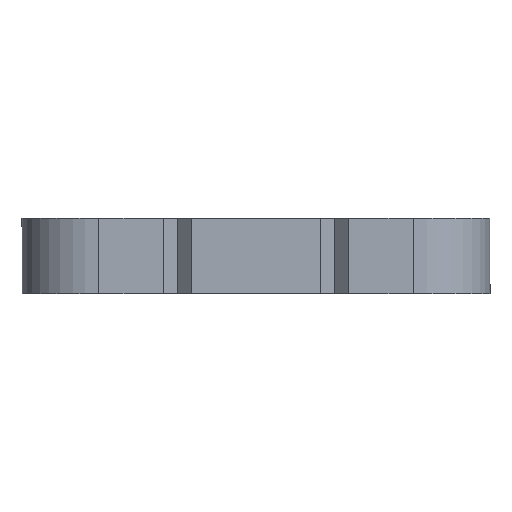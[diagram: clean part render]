
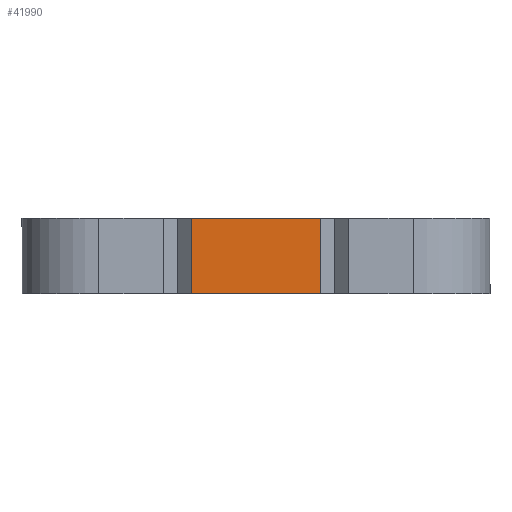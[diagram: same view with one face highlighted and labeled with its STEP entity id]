
A CAD part, left-side view. The second image highlights one B-rep face of the part: STEP entity #41990.
In plain terms, the highlighted planar face has unit normal (-1, 0, 0).
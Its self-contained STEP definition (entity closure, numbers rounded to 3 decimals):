
#1366 = DIRECTION ( 'NONE',  ( 0., 0., -1. ) ) ;
#2363 = CARTESIAN_POINT ( 'NONE',  ( -50.65, 5.219, -3.05 ) ) ;
#5065 = ORIENTED_EDGE ( 'NONE', *, *, #30131, .F. ) ;
#5591 = CARTESIAN_POINT ( 'NONE',  ( -50.65, 5.219, -3.05 ) ) ;
#5607 = PLANE ( 'NONE',  #32168 ) ;
#5683 = VERTEX_POINT ( 'NONE', #33441 ) ;
#11883 = LINE ( 'NONE', #36732, #22673 ) ;
#11892 = CARTESIAN_POINT ( 'NONE',  ( -50.65, 5.219, 3.05 ) ) ;
#12334 = VERTEX_POINT ( 'NONE', #31344 ) ;
#12346 = DIRECTION ( 'NONE',  ( 0., 0., -1. ) ) ;
#13660 = VECTOR ( 'NONE', #1366, 1000. ) ;
#17278 = DIRECTION ( 'NONE',  ( 1., 0., 0. ) ) ;
#19228 = LINE ( 'NONE', #2363, #33657 ) ;
#20181 = EDGE_CURVE ( 'NONE', #36961, #5683, #19228, .T. ) ;
#21582 = EDGE_CURVE ( 'NONE', #31219, #5683, #25725, .T. ) ;
#22128 = ORIENTED_EDGE ( 'NONE', *, *, #28848, .T. ) ;
#22673 = VECTOR ( 'NONE', #12346, 1000. ) ;
#23529 = VECTOR ( 'NONE', #26875, 1000. ) ;
#25191 = EDGE_LOOP ( 'NONE', ( #22128, #28671, #36995, #5065 ) ) ;
#25725 = LINE ( 'NONE', #43559, #13660 ) ;
#26875 = DIRECTION ( 'NONE',  ( 0., -1., 0. ) ) ;
#28671 = ORIENTED_EDGE ( 'NONE', *, *, #20181, .T. ) ;
#28848 = EDGE_CURVE ( 'NONE', #12334, #36961, #11883, .T. ) ;
#30131 = EDGE_CURVE ( 'NONE', #12334, #31219, #44470, .T. ) ;
#30485 = DIRECTION ( 'NONE',  ( 0., -1., 0. ) ) ;
#30659 = CARTESIAN_POINT ( 'NONE',  ( -50.65, 0., 1. ) ) ;
#31219 = VERTEX_POINT ( 'NONE', #40652 ) ;
#31344 = CARTESIAN_POINT ( 'NONE',  ( -50.65, 5.219, 3.05 ) ) ;
#32168 = AXIS2_PLACEMENT_3D ( 'NONE', #30659, #17278, #45885 ) ;
#33441 = CARTESIAN_POINT ( 'NONE',  ( -50.65, -5.219, -3.05 ) ) ;
#33657 = VECTOR ( 'NONE', #30485, 1000. ) ;
#36732 = CARTESIAN_POINT ( 'NONE',  ( -50.65, 5.219, 1. ) ) ;
#36961 = VERTEX_POINT ( 'NONE', #5591 ) ;
#36995 = ORIENTED_EDGE ( 'NONE', *, *, #21582, .F. ) ;
#37688 = FACE_OUTER_BOUND ( 'NONE', #25191, .T. ) ;
#40652 = CARTESIAN_POINT ( 'NONE',  ( -50.65, -5.219, 3.05 ) ) ;
#41990 = ADVANCED_FACE ( 'NONE', ( #37688 ), #5607, .F. ) ;
#43559 = CARTESIAN_POINT ( 'NONE',  ( -50.65, -5.219, 1. ) ) ;
#44470 = LINE ( 'NONE', #11892, #23529 ) ;
#45885 = DIRECTION ( 'NONE',  ( 0., 1., 0. ) ) ;
